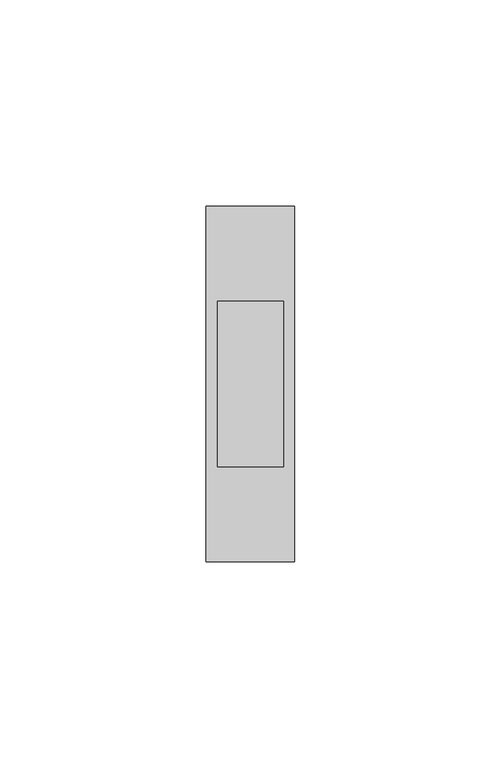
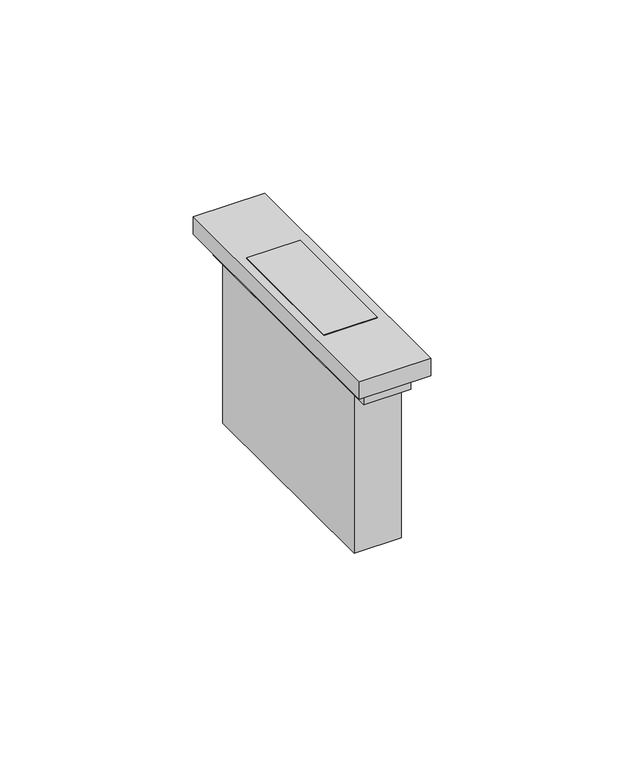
"""IFC4 building model written with IfcOpenShell, lengths in millimetres: proxy geometry, BT_LN-LampadaDiSicurezza_K4381 : Lampada Di Sicurezza a LED - Art. K4381 - 1M - Cover Sabbia."""

from ifc_helpers import new_model, si_unit, frame, origin, origin_with_axes, place, context, project, spatial, polyline, outline, extrude, faceted_brep, source, transform, mapped, element, save


def security_devices_0f9b99a1(model_context):
    return source(origin(), model_context, "Body", "SolidModel", [
        extrude(outline(polyline([(-8.0, 20.0), (8.0, 20.0), (8.0, -20.0), (-8.0, -20.0), (-8.0, 20.0)])), frame((0.0, 0.0, 55.5), z_axis=(0.0, 0.0, 1.0), x_axis=(1.0, 0.0, 0.0)), (0.0, 0.0, 1.0), 5.5),
        faceted_brep([(-10.7, -43.0, 61.0), (10.7, -43.0, 61.0), (10.7, 43.0, 61.0), (-10.7, 43.0, 61.0), (-8.0, -20.0, 61.0), (-8.0, 20.0, 61.0), (8.0, 20.0, 61.0), (8.0, -20.0, 61.0), (-10.7, -43.0, 55.5), (-10.7, 43.0, 55.5), (10.7, 43.0, 55.5), (10.7, -43.0, 55.5), (-8.0, 20.0, 58.0), (-8.0, -20.0, 58.0), (8.0, -20.0, 58.0), (8.0, 20.0, 58.0)], [[[0, 1, 2, 3], [4, 5, 6, 7]], [[8, 9, 10, 11]], [[1, 0, 8, 11]], [[2, 1, 11, 10]], [[3, 2, 10, 9]], [[0, 3, 9, 8]], [[12, 13, 14, 15]], [[13, 12, 5, 4]], [[14, 13, 4, 7]], [[15, 14, 7, 6]], [[12, 15, 6, 5]]]),
        extrude(outline(polyline([(-7.0, 39.0), (7.0, 39.0), (7.0, -39.0), (-7.0, -39.0), (-7.0, 39.0)])), frame((0.0, 0.0, 50.0), z_axis=(0.0, 0.0, 1.0), x_axis=(1.0, 0.0, 0.0)), (0.0, 0.0, 1.0), 5.5),
        extrude(outline(polyline([(-7.0, 34.0), (7.0, 34.0), (7.0, -34.0), (-7.0, -34.0), (-7.0, 34.0)])), origin_with_axes(), (0.0, 0.0, 1.0), 50.0),
    ])


if __name__ == "__main__":
    model = new_model("IFC4")
    model_context = context("Model", 3, world=origin())
    ifc_project = project(units=[si_unit("LENGTHUNIT", "METRE", prefix="MILLI")], contexts=[model_context])
    site = spatial("IfcSite", under=ifc_project)
    building = spatial("IfcBuilding", under=site)
    placement = place(None, origin())
    security_devices_shape = security_devices_0f9b99a1(model_context)
    element("IfcBuildingElementProxy", 1, Name="BT_LN-LampadaDiSicurezza_K4381 : Lampada Di Sicurezza a LED - Art. K4381 - 1M - Cover Sabbia", ObjectType="BT_LN-LampadaDiSicurezza_K4381 : Lampada Di Sicurezza a LED - Art. K4381 - 1M - Cover Sabbia", at=placement, inside=building, context=model_context, shape_type="MappedRepresentation", body=[
        mapped(security_devices_shape, transform((0.0, 0.0, 0.0), x_axis=(1.0, 0.0, 0.0), y_axis=(0.0, 1.0, 0.0), z_axis=(0.0, 0.0, 1.0))),
    ])
    save(model, "model.ifc")
